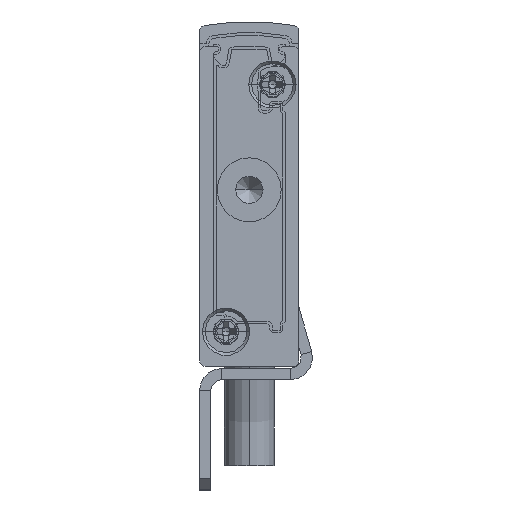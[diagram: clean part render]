
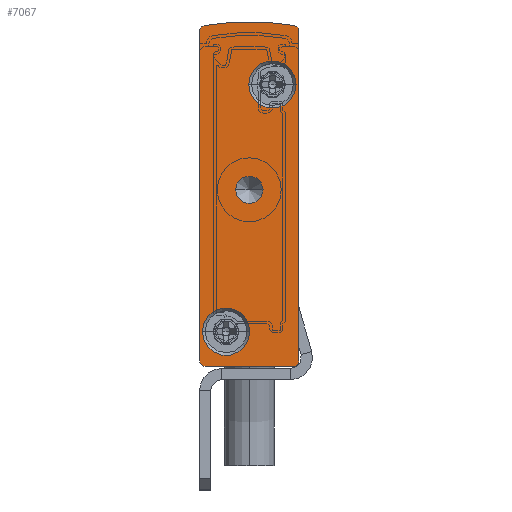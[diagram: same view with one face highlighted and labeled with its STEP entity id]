
A CAD part, front view. The second image highlights one B-rep face of the part: STEP entity #7067.
In plain terms, the highlighted planar face has unit normal (0, -1, 0).
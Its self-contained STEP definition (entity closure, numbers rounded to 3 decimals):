
#308 = DIRECTION ( 'NONE',  ( 0., -1., 0. ) ) ;
#361 = DIRECTION ( 'NONE',  ( 0., 1., 0. ) ) ;
#584 = DIRECTION ( 'NONE',  ( -1., 0., 0. ) ) ;
#912 = EDGE_CURVE ( 'NONE', #3056, #22239, #5164, .T. ) ;
#1032 = CARTESIAN_POINT ( 'NONE',  ( -0.408, -2.5, 30.893 ) ) ;
#1049 = CARTESIAN_POINT ( 'NONE',  ( -3.25, -2.5, 16. ) ) ;
#1299 = ORIENTED_EDGE ( 'NONE', *, *, #3067, .F. ) ;
#1607 = DIRECTION ( 'NONE',  ( 0., 0., -1. ) ) ;
#1797 = CARTESIAN_POINT ( 'NONE',  ( -9., -2.5, 30.402 ) ) ;
#1876 = EDGE_LOOP ( 'NONE', ( #5392, #15121 ) ) ;
#2049 = CARTESIAN_POINT ( 'NONE',  ( -8.5, -2.5, 30.402 ) ) ;
#2196 = AXIS2_PLACEMENT_3D ( 'NONE', #2049, #4164, #9535 ) ;
#2518 = CARTESIAN_POINT ( 'NONE',  ( -8.75, -2.5, 3.15 ) ) ;
#2989 = CIRCLE ( 'NONE', #17447, 2.15 ) ;
#3044 = CARTESIAN_POINT ( 'NONE',  ( -9., -2.5, 30.402 ) ) ;
#3056 = VERTEX_POINT ( 'NONE', #21214 ) ;
#3067 = EDGE_CURVE ( 'NONE', #23259, #18913, #4671, .T. ) ;
#3098 = ORIENTED_EDGE ( 'NONE', *, *, #912, .F. ) ;
#3499 = ORIENTED_EDGE ( 'NONE', *, *, #14918, .F. ) ;
#3643 = FACE_BOUND ( 'NONE', #1876, .T. ) ;
#3663 = CARTESIAN_POINT ( 'NONE',  ( -6.6, -2.5, 3.15 ) ) ;
#3809 = EDGE_LOOP ( 'NONE', ( #20150, #7751 ) ) ;
#3971 = DIRECTION ( 'NONE',  ( 1., 0., 0. ) ) ;
#4164 = DIRECTION ( 'NONE',  ( 0., 1., 0. ) ) ;
#4195 = DIRECTION ( 'NONE',  ( -1., 0., 0. ) ) ;
#4211 = FACE_BOUND ( 'NONE', #6026, .T. ) ;
#4274 = CARTESIAN_POINT ( 'NONE',  ( -0.5, -2.5, 0. ) ) ;
#4511 = CARTESIAN_POINT ( 'NONE',  ( -4.5, -2.5, 7.592 ) ) ;
#4671 = CIRCLE ( 'NONE', #8748, 0.5 ) ;
#4851 = EDGE_CURVE ( 'NONE', #22239, #3056, #5334, .T. ) ;
#5164 = CIRCLE ( 'NONE', #14006, 2.15 ) ;
#5241 = DIRECTION ( 'NONE',  ( 0., 1., 0. ) ) ;
#5334 = CIRCLE ( 'NONE', #9409, 2.15 ) ;
#5354 = LINE ( 'NONE', #1797, #12846 ) ;
#5392 = ORIENTED_EDGE ( 'NONE', *, *, #20911, .F. ) ;
#5489 = CARTESIAN_POINT ( 'NONE',  ( 0., -2.5, 0.5 ) ) ;
#5537 = DIRECTION ( 'NONE',  ( 1., 0., 0. ) ) ;
#5552 = VERTEX_POINT ( 'NONE', #4274 ) ;
#5698 = LINE ( 'NONE', #10643, #15541 ) ;
#6026 = EDGE_LOOP ( 'NONE', ( #3098, #6111 ) ) ;
#6081 = VERTEX_POINT ( 'NONE', #22581 ) ;
#6111 = ORIENTED_EDGE ( 'NONE', *, *, #4851, .F. ) ;
#6126 = EDGE_CURVE ( 'NONE', #15681, #17929, #13800, .T. ) ;
#6516 = ORIENTED_EDGE ( 'NONE', *, *, #6851, .F. ) ;
#6637 = EDGE_CURVE ( 'NONE', #15740, #21156, #18953, .T. ) ;
#6709 = ORIENTED_EDGE ( 'NONE', *, *, #11747, .F. ) ;
#6772 = DIRECTION ( 'NONE',  ( 0., 1., 0. ) ) ;
#6851 = EDGE_CURVE ( 'NONE', #20704, #11293, #13990, .T. ) ;
#7067 = ADVANCED_FACE ( 'NONE', ( #3643, #4211, #23652, #15186 ), #10905, .F. ) ;
#7207 = ORIENTED_EDGE ( 'NONE', *, *, #7509, .F. ) ;
#7509 = EDGE_CURVE ( 'NONE', #18913, #20077, #5354, .T. ) ;
#7751 = ORIENTED_EDGE ( 'NONE', *, *, #8589, .T. ) ;
#7804 = CARTESIAN_POINT ( 'NONE',  ( -2.4, -2.5, 25.55 ) ) ;
#7927 = DIRECTION ( 'NONE',  ( 0., 1., 0. ) ) ;
#8589 = EDGE_CURVE ( 'NONE', #21156, #15740, #17376, .T. ) ;
#8748 = AXIS2_PLACEMENT_3D ( 'NONE', #17978, #6772, #23416 ) ;
#8977 = DIRECTION ( 'NONE',  ( -1., 0., 0. ) ) ;
#9100 = DIRECTION ( 'NONE',  ( 0., 1., 0. ) ) ;
#9208 = DIRECTION ( 'NONE',  ( 0., -1., 0. ) ) ;
#9240 = DIRECTION ( 'NONE',  ( 0., 1., 0. ) ) ;
#9332 = DIRECTION ( 'NONE',  ( -1., 0., 0. ) ) ;
#9409 = AXIS2_PLACEMENT_3D ( 'NONE', #12728, #9208, #5537 ) ;
#9535 = DIRECTION ( 'NONE',  ( -1., 0., 0. ) ) ;
#9577 = CIRCLE ( 'NONE', #9962, 0.5 ) ;
#9757 = AXIS2_PLACEMENT_3D ( 'NONE', #12582, #5241, #8977 ) ;
#9847 = EDGE_CURVE ( 'NONE', #6081, #14802, #21677, .T. ) ;
#9962 = AXIS2_PLACEMENT_3D ( 'NONE', #11092, #9100, #9332 ) ;
#10352 = AXIS2_PLACEMENT_3D ( 'NONE', #20148, #9240, #11082 ) ;
#10643 = CARTESIAN_POINT ( 'NONE',  ( -8.5, -2.5, 0. ) ) ;
#10744 = DIRECTION ( 'NONE',  ( -1., 0., 0. ) ) ;
#10905 = PLANE ( 'NONE',  #9757 ) ;
#11082 = DIRECTION ( 'NONE',  ( -1., 0., 0. ) ) ;
#11092 = CARTESIAN_POINT ( 'NONE',  ( -0.5, -2.5, 0.5 ) ) ;
#11293 = VERTEX_POINT ( 'NONE', #1032 ) ;
#11312 = EDGE_LOOP ( 'NONE', ( #3499, #7207, #1299, #6709, #20816, #20188, #12030, #6516 ) ) ;
#11747 = EDGE_CURVE ( 'NONE', #5552, #23259, #5698, .T. ) ;
#12030 = ORIENTED_EDGE ( 'NONE', *, *, #14479, .F. ) ;
#12582 = CARTESIAN_POINT ( 'NONE',  ( -8.5, -2.5, 30.402 ) ) ;
#12692 = CARTESIAN_POINT ( 'NONE',  ( 0., -2.5, 30.402 ) ) ;
#12728 = CARTESIAN_POINT ( 'NONE',  ( -6.6, -2.5, 3.15 ) ) ;
#12846 = VECTOR ( 'NONE', #18456, 1000. ) ;
#12903 = CARTESIAN_POINT ( 'NONE',  ( -5.75, -2.5, 16. ) ) ;
#13085 = AXIS2_PLACEMENT_3D ( 'NONE', #4511, #7927, #584 ) ;
#13800 = CIRCLE ( 'NONE', #19711, 2.15 ) ;
#13953 = AXIS2_PLACEMENT_3D ( 'NONE', #15339, #361, #4195 ) ;
#13990 = CIRCLE ( 'NONE', #13085, 23.658 ) ;
#14006 = AXIS2_PLACEMENT_3D ( 'NONE', #3663, #16678, #14502 ) ;
#14110 = CARTESIAN_POINT ( 'NONE',  ( -4.5, -2.5, 16. ) ) ;
#14479 = EDGE_CURVE ( 'NONE', #11293, #6081, #23633, .T. ) ;
#14502 = DIRECTION ( 'NONE',  ( 1., 0., 0. ) ) ;
#14802 = VERTEX_POINT ( 'NONE', #5489 ) ;
#14918 = EDGE_CURVE ( 'NONE', #20077, #20704, #17181, .T. ) ;
#15035 = DIRECTION ( 'NONE',  ( 1., 0., 0. ) ) ;
#15121 = ORIENTED_EDGE ( 'NONE', *, *, #6126, .F. ) ;
#15186 = FACE_BOUND ( 'NONE', #3809, .T. ) ;
#15339 = CARTESIAN_POINT ( 'NONE',  ( -0.5, -2.5, 30.402 ) ) ;
#15541 = VECTOR ( 'NONE', #23579, 1000. ) ;
#15555 = CARTESIAN_POINT ( 'NONE',  ( -8.5, -2.5, 0. ) ) ;
#15681 = VERTEX_POINT ( 'NONE', #18201 ) ;
#15740 = VERTEX_POINT ( 'NONE', #12903 ) ;
#15810 = AXIS2_PLACEMENT_3D ( 'NONE', #14110, #21816, #10744 ) ;
#15900 = VECTOR ( 'NONE', #1607, 1000. ) ;
#16463 = CARTESIAN_POINT ( 'NONE',  ( -0.25, -2.5, 25.55 ) ) ;
#16678 = DIRECTION ( 'NONE',  ( 0., -1., 0. ) ) ;
#16839 = CARTESIAN_POINT ( 'NONE',  ( -9., -2.5, 0.5 ) ) ;
#16986 = DIRECTION ( 'NONE',  ( 0., -1., 0. ) ) ;
#17153 = CARTESIAN_POINT ( 'NONE',  ( -2.4, -2.5, 25.55 ) ) ;
#17181 = CIRCLE ( 'NONE', #2196, 0.5 ) ;
#17376 = CIRCLE ( 'NONE', #15810, 1.25 ) ;
#17447 = AXIS2_PLACEMENT_3D ( 'NONE', #17153, #16986, #15035 ) ;
#17929 = VERTEX_POINT ( 'NONE', #16463 ) ;
#17978 = CARTESIAN_POINT ( 'NONE',  ( -8.5, -2.5, 0.5 ) ) ;
#18201 = CARTESIAN_POINT ( 'NONE',  ( -4.55, -2.5, 25.55 ) ) ;
#18456 = DIRECTION ( 'NONE',  ( 0., 0., 1. ) ) ;
#18913 = VERTEX_POINT ( 'NONE', #16839 ) ;
#18953 = CIRCLE ( 'NONE', #10352, 1.25 ) ;
#19711 = AXIS2_PLACEMENT_3D ( 'NONE', #7804, #308, #3971 ) ;
#20077 = VERTEX_POINT ( 'NONE', #3044 ) ;
#20148 = CARTESIAN_POINT ( 'NONE',  ( -4.5, -2.5, 16. ) ) ;
#20150 = ORIENTED_EDGE ( 'NONE', *, *, #6637, .T. ) ;
#20188 = ORIENTED_EDGE ( 'NONE', *, *, #9847, .F. ) ;
#20704 = VERTEX_POINT ( 'NONE', #23460 ) ;
#20816 = ORIENTED_EDGE ( 'NONE', *, *, #23596, .F. ) ;
#20911 = EDGE_CURVE ( 'NONE', #17929, #15681, #2989, .T. ) ;
#21156 = VERTEX_POINT ( 'NONE', #1049 ) ;
#21214 = CARTESIAN_POINT ( 'NONE',  ( -4.45, -2.5, 3.15 ) ) ;
#21677 = LINE ( 'NONE', #12692, #15900 ) ;
#21816 = DIRECTION ( 'NONE',  ( 0., 1., 0. ) ) ;
#22239 = VERTEX_POINT ( 'NONE', #2518 ) ;
#22581 = CARTESIAN_POINT ( 'NONE',  ( 0., -2.5, 30.402 ) ) ;
#23259 = VERTEX_POINT ( 'NONE', #15555 ) ;
#23416 = DIRECTION ( 'NONE',  ( -1., 0., 0. ) ) ;
#23460 = CARTESIAN_POINT ( 'NONE',  ( -8.592, -2.5, 30.893 ) ) ;
#23579 = DIRECTION ( 'NONE',  ( -1., 0., 0. ) ) ;
#23596 = EDGE_CURVE ( 'NONE', #14802, #5552, #9577, .T. ) ;
#23633 = CIRCLE ( 'NONE', #13953, 0.5 ) ;
#23652 = FACE_OUTER_BOUND ( 'NONE', #11312, .T. ) ;
